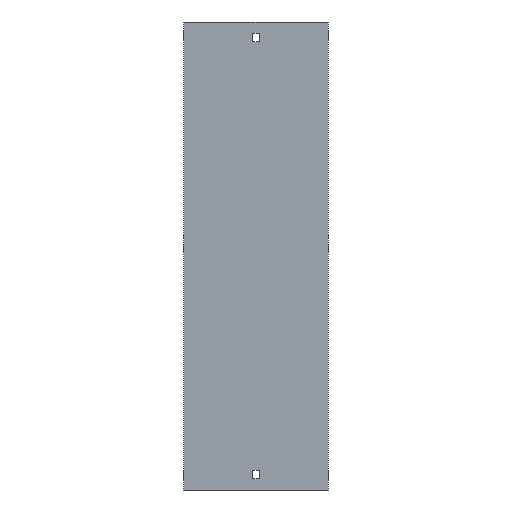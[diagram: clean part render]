
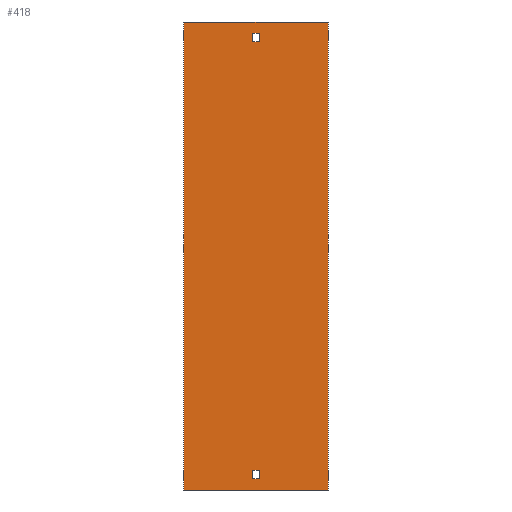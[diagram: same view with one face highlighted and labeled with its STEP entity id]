
A CAD part, front view. The second image highlights one B-rep face of the part: STEP entity #418.
In plain terms, the highlighted planar face has unit normal (0, -1, 0).
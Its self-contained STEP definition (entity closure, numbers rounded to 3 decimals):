
#8 = VECTOR ( 'NONE', #999, 1000. ) ;
#19 = DIRECTION ( 'NONE',  ( 1., 0., 0. ) ) ;
#58 = CARTESIAN_POINT ( 'NONE',  ( -77., 0., 250. ) ) ;
#66 = DIRECTION ( 'NONE',  ( 0., 1., 0. ) ) ;
#94 = EDGE_CURVE ( 'NONE', #1356, #1120, #445, .T. ) ;
#139 = EDGE_CURVE ( 'NONE', #383, #1527, #837, .T. ) ;
#141 = ORIENTED_EDGE ( 'NONE', *, *, #885, .T. ) ;
#151 = VECTOR ( 'NONE', #1065, 1000. ) ;
#152 = CARTESIAN_POINT ( 'NONE',  ( 3.25, 0., 238. ) ) ;
#182 = LINE ( 'NONE', #1460, #393 ) ;
#199 = ORIENTED_EDGE ( 'NONE', *, *, #1139, .F. ) ;
#205 = PLANE ( 'NONE',  #927 ) ;
#270 = EDGE_LOOP ( 'NONE', ( #141, #1220, #1103, #758 ) ) ;
#278 = EDGE_LOOP ( 'NONE', ( #858, #596, #199, #1669 ) ) ;
#282 = VECTOR ( 'NONE', #19, 1000. ) ;
#292 = EDGE_CURVE ( 'NONE', #1527, #953, #1555, .T. ) ;
#319 = DIRECTION ( 'NONE',  ( -1., 0., 0. ) ) ;
#320 = DIRECTION ( 'NONE',  ( 1., 0., 0. ) ) ;
#340 = EDGE_CURVE ( 'NONE', #1363, #953, #1172, .T. ) ;
#351 = ORIENTED_EDGE ( 'NONE', *, *, #340, .T. ) ;
#383 = VERTEX_POINT ( 'NONE', #1239 ) ;
#393 = VECTOR ( 'NONE', #1058, 1000. ) ;
#408 = VERTEX_POINT ( 'NONE', #1630 ) ;
#418 = ADVANCED_FACE ( 'NONE', ( #1222, #982, #1357 ), #205, .F. ) ;
#427 = ORIENTED_EDGE ( 'NONE', *, *, #139, .F. ) ;
#445 = LINE ( 'NONE', #1481, #690 ) ;
#477 = DIRECTION ( 'NONE',  ( 0., 0., -1. ) ) ;
#490 = EDGE_CURVE ( 'NONE', #408, #726, #1304, .T. ) ;
#543 = CARTESIAN_POINT ( 'NONE',  ( -3.25, 0., -229. ) ) ;
#548 = CARTESIAN_POINT ( 'NONE',  ( -77., 0., -250. ) ) ;
#549 = LINE ( 'NONE', #1560, #779 ) ;
#589 = ORIENTED_EDGE ( 'NONE', *, *, #292, .F. ) ;
#596 = ORIENTED_EDGE ( 'NONE', *, *, #1511, .F. ) ;
#601 = VERTEX_POINT ( 'NONE', #957 ) ;
#615 = VERTEX_POINT ( 'NONE', #1361 ) ;
#623 = DIRECTION ( 'NONE',  ( -1., 0., 0. ) ) ;
#690 = VECTOR ( 'NONE', #959, 1000. ) ;
#726 = VERTEX_POINT ( 'NONE', #897 ) ;
#757 = CARTESIAN_POINT ( 'NONE',  ( 77., 0., 250. ) ) ;
#758 = ORIENTED_EDGE ( 'NONE', *, *, #898, .T. ) ;
#766 = CARTESIAN_POINT ( 'NONE',  ( 3.25, 0., -238. ) ) ;
#779 = VECTOR ( 'NONE', #1042, 1000. ) ;
#837 = LINE ( 'NONE', #1648, #8 ) ;
#858 = ORIENTED_EDGE ( 'NONE', *, *, #1009, .F. ) ;
#885 = EDGE_CURVE ( 'NONE', #615, #1505, #182, .T. ) ;
#897 = CARTESIAN_POINT ( 'NONE',  ( 3.25, 0., 238. ) ) ;
#898 = EDGE_CURVE ( 'NONE', #1120, #615, #549, .T. ) ;
#909 = DIRECTION ( 'NONE',  ( 0., 0., -1. ) ) ;
#927 = AXIS2_PLACEMENT_3D ( 'NONE', #58, #66, #319 ) ;
#953 = VERTEX_POINT ( 'NONE', #1252 ) ;
#957 = CARTESIAN_POINT ( 'NONE',  ( -3.25, 0., 229. ) ) ;
#959 = DIRECTION ( 'NONE',  ( 0., 0., -1. ) ) ;
#963 = LINE ( 'NONE', #1073, #1217 ) ;
#982 = FACE_BOUND ( 'NONE', #278, .T. ) ;
#989 = CARTESIAN_POINT ( 'NONE',  ( -3.25, 0., 238. ) ) ;
#997 = VECTOR ( 'NONE', #623, 1000. ) ;
#999 = DIRECTION ( 'NONE',  ( 1., 0., 0. ) ) ;
#1009 = EDGE_CURVE ( 'NONE', #601, #408, #963, .T. ) ;
#1042 = DIRECTION ( 'NONE',  ( -1., 0., 0. ) ) ;
#1058 = DIRECTION ( 'NONE',  ( 0., 0., 1. ) ) ;
#1059 = DIRECTION ( 'NONE',  ( 1., 0., 0. ) ) ;
#1065 = DIRECTION ( 'NONE',  ( 0., 0., -1. ) ) ;
#1073 = CARTESIAN_POINT ( 'NONE',  ( -3.25, 0., 229. ) ) ;
#1103 = ORIENTED_EDGE ( 'NONE', *, *, #94, .T. ) ;
#1120 = VERTEX_POINT ( 'NONE', #766 ) ;
#1139 = EDGE_CURVE ( 'NONE', #726, #1673, #1550, .T. ) ;
#1172 = LINE ( 'NONE', #548, #282 ) ;
#1216 = LINE ( 'NONE', #543, #1244 ) ;
#1217 = VECTOR ( 'NONE', #320, 1000. ) ;
#1220 = ORIENTED_EDGE ( 'NONE', *, *, #1679, .T. ) ;
#1222 = FACE_OUTER_BOUND ( 'NONE', #1282, .T. ) ;
#1239 = CARTESIAN_POINT ( 'NONE',  ( -77., 0., 250. ) ) ;
#1244 = VECTOR ( 'NONE', #1059, 1000. ) ;
#1252 = CARTESIAN_POINT ( 'NONE',  ( 77., 0., -250. ) ) ;
#1275 = VECTOR ( 'NONE', #477, 1000. ) ;
#1277 = CARTESIAN_POINT ( 'NONE',  ( -3.25, 0., -229. ) ) ;
#1282 = EDGE_LOOP ( 'NONE', ( #351, #589, #427, #1473 ) ) ;
#1298 = CARTESIAN_POINT ( 'NONE',  ( 3.25, 0., -229. ) ) ;
#1304 = LINE ( 'NONE', #152, #1677 ) ;
#1311 = EDGE_CURVE ( 'NONE', #383, #1363, #1441, .T. ) ;
#1356 = VERTEX_POINT ( 'NONE', #1298 ) ;
#1357 = FACE_BOUND ( 'NONE', #270, .T. ) ;
#1361 = CARTESIAN_POINT ( 'NONE',  ( -3.25, 0., -238. ) ) ;
#1363 = VERTEX_POINT ( 'NONE', #1435 ) ;
#1432 = DIRECTION ( 'NONE',  ( 0., 0., 1. ) ) ;
#1435 = CARTESIAN_POINT ( 'NONE',  ( -77., 0., -250. ) ) ;
#1441 = LINE ( 'NONE', #1558, #1518 ) ;
#1460 = CARTESIAN_POINT ( 'NONE',  ( -3.25, 0., -238. ) ) ;
#1473 = ORIENTED_EDGE ( 'NONE', *, *, #1311, .T. ) ;
#1481 = CARTESIAN_POINT ( 'NONE',  ( 3.25, 0., -238. ) ) ;
#1505 = VERTEX_POINT ( 'NONE', #1277 ) ;
#1511 = EDGE_CURVE ( 'NONE', #1673, #601, #1640, .T. ) ;
#1516 = CARTESIAN_POINT ( 'NONE',  ( -3.25, 0., 238. ) ) ;
#1518 = VECTOR ( 'NONE', #909, 1000. ) ;
#1527 = VERTEX_POINT ( 'NONE', #757 ) ;
#1550 = LINE ( 'NONE', #1516, #997 ) ;
#1555 = LINE ( 'NONE', #1559, #151 ) ;
#1558 = CARTESIAN_POINT ( 'NONE',  ( -77., 0., 250. ) ) ;
#1559 = CARTESIAN_POINT ( 'NONE',  ( 77., 0., 250. ) ) ;
#1560 = CARTESIAN_POINT ( 'NONE',  ( -3.25, 0., -238. ) ) ;
#1596 = CARTESIAN_POINT ( 'NONE',  ( -3.25, 0., 238. ) ) ;
#1630 = CARTESIAN_POINT ( 'NONE',  ( 3.25, 0., 229. ) ) ;
#1640 = LINE ( 'NONE', #989, #1275 ) ;
#1648 = CARTESIAN_POINT ( 'NONE',  ( -77., 0., 250. ) ) ;
#1669 = ORIENTED_EDGE ( 'NONE', *, *, #490, .F. ) ;
#1673 = VERTEX_POINT ( 'NONE', #1596 ) ;
#1677 = VECTOR ( 'NONE', #1432, 1000. ) ;
#1679 = EDGE_CURVE ( 'NONE', #1505, #1356, #1216, .T. ) ;
